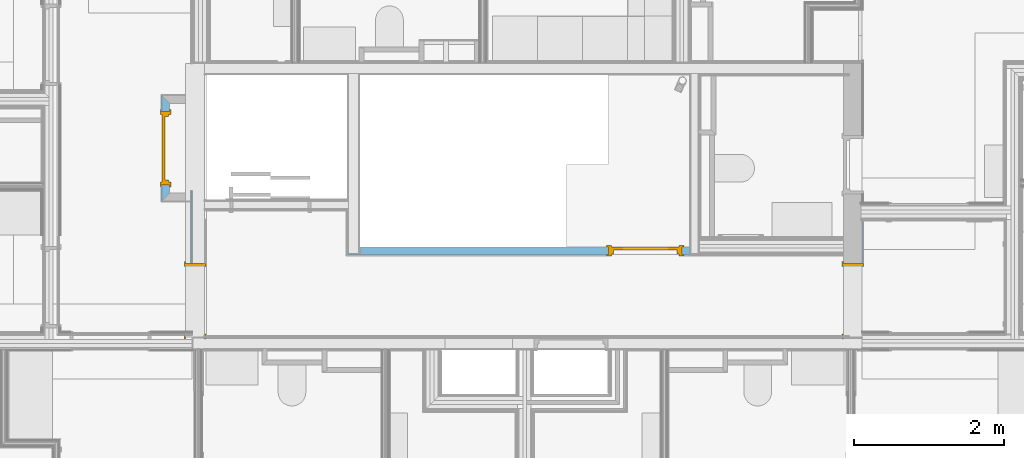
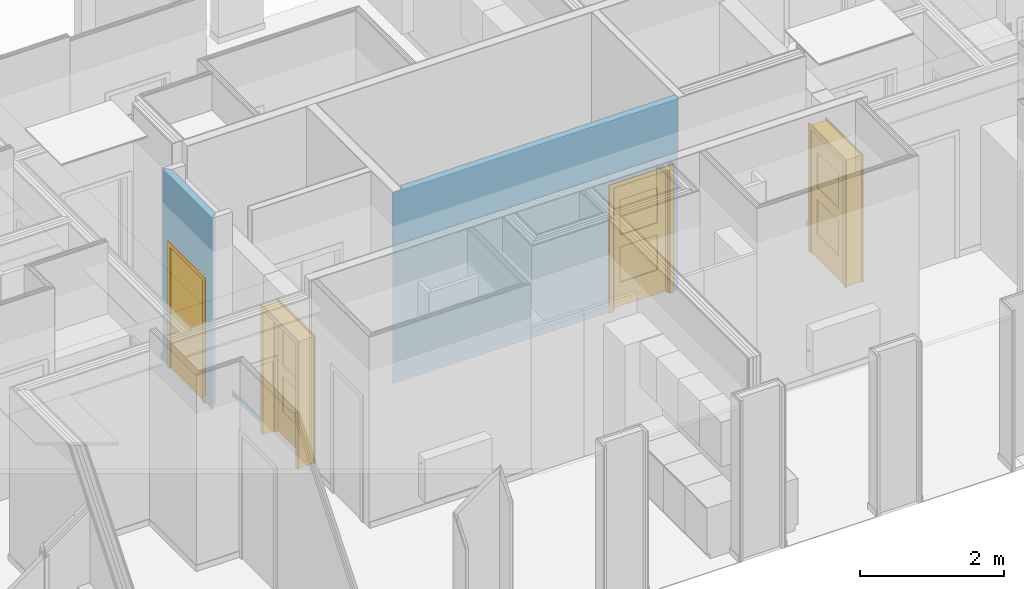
# One storey, part 49 of 65: 4 doors, 4 openings, plus 4 elements that do not belong to this part.
"""IFC2X3 building model written with IfcOpenShell, lengths in metres."""

from ifc_helpers import new_model, entity, si_unit, converted_unit, derived_unit, money_unit, direction, frame, frame_2d, origin_with_axes, place, context, subcontext, project, spatial, polyline, rectangle, outline, extrude, clip, bounded_halfspace, faceted_brep, material, layer, layer_set, layer_usage, type_object, element, fill, save


model = new_model("IFC2X3")

# Units and contexts
model_context = context("Model", 3, precision=1e-05, world=origin_with_axes(), true_north=direction((0.0, 1.0)))
body_context = subcontext(model_context, "Body", "Model", "MODEL_VIEW", scale=1.0)
ifc_project = project(units=[si_unit("LENGTHUNIT", "METRE"), si_unit("AREAUNIT", "SQUARE_METRE"), si_unit("VOLUMEUNIT", "CUBIC_METRE"), si_unit("ABSORBEDDOSEUNIT", "GRAY"), si_unit("AMOUNTOFSUBSTANCEUNIT", "MOLE"), si_unit("DOSEEQUIVALENTUNIT", "SIEVERT"), si_unit("ELECTRICCAPACITANCEUNIT", "FARAD"), si_unit("ELECTRICCHARGEUNIT", "COULOMB"), si_unit("ELECTRICCONDUCTANCEUNIT", "SIEMENS"), si_unit("ELECTRICCURRENTUNIT", "AMPERE"), si_unit("ELECTRICRESISTANCEUNIT", "OHM"), si_unit("ELECTRICVOLTAGEUNIT", "VOLT"), si_unit("ENERGYUNIT", "JOULE"), si_unit("FORCEUNIT", "NEWTON"), si_unit("FREQUENCYUNIT", "HERTZ"), si_unit("ILLUMINANCEUNIT", "LUX"), si_unit("INDUCTANCEUNIT", "HENRY"), si_unit("LUMINOUSFLUXUNIT", "LUMEN"), si_unit("LUMINOUSINTENSITYUNIT", "CANDELA"), si_unit("MAGNETICFLUXDENSITYUNIT", "TESLA"), si_unit("MAGNETICFLUXUNIT", "WEBER"), si_unit("MASSUNIT", "GRAM"), converted_unit("PLANEANGLEUNIT", "degree", entity("IfcReal", 0.0174532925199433), si_unit("PLANEANGLEUNIT", "RADIAN"), dimensions=[0, 0, 0, 0, 0, 0, 0]), si_unit("POWERUNIT", "WATT"), si_unit("PRESSUREUNIT", "PASCAL"), si_unit("RADIOACTIVITYUNIT", "BECQUEREL"), si_unit("SOLIDANGLEUNIT", "STERADIAN"), si_unit("THERMODYNAMICTEMPERATUREUNIT", "KELVIN"), si_unit("TIMEUNIT", "SECOND"), derived_unit("ACCELERATIONUNIT", [(si_unit("LENGTHUNIT", "METRE"), 1), (si_unit("TIMEUNIT", "SECOND"), -2)]), derived_unit("ANGULARVELOCITYUNIT", [(converted_unit("PLANEANGLEUNIT", "degree", entity("IfcReal", 0.0174532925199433), si_unit("PLANEANGLEUNIT", "RADIAN"), dimensions=[0, 0, 0, 0, 0, 0, 0]), 1), (si_unit("TIMEUNIT", "SECOND"), -1)]), derived_unit("CURVATUREUNIT", [(converted_unit("PLANEANGLEUNIT", "degree", entity("IfcReal", 0.0174532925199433), si_unit("PLANEANGLEUNIT", "RADIAN"), dimensions=[0, 0, 0, 0, 0, 0, 0]), 1), (si_unit("LENGTHUNIT", "METRE"), -1)]), derived_unit("DYNAMICVISCOSITYUNIT", [(si_unit("PRESSUREUNIT", "PASCAL"), 1), (si_unit("TIMEUNIT", "SECOND"), 1)]), derived_unit("HEATFLUXDENSITYUNIT", [(si_unit("POWERUNIT", "WATT"), 1), (si_unit("LENGTHUNIT", "METRE"), -2)]), derived_unit("HEATINGVALUEUNIT", [(si_unit("ENERGYUNIT", "JOULE"), 1), (si_unit("MASSUNIT", "GRAM"), -1)]), derived_unit("INTEGERCOUNTRATEUNIT", [(si_unit("TIMEUNIT", "SECOND"), -1)]), derived_unit("IONCONCENTRATIONUNIT", [(si_unit("MASSUNIT", "GRAM"), 1), (si_unit("VOLUMEUNIT", "CUBIC_METRE"), -1)]), derived_unit("ISOTHERMALMOISTURECAPACITYUNIT", [(si_unit("VOLUMEUNIT", "CUBIC_METRE"), 1), (si_unit("MASSUNIT", "GRAM"), -1)]), derived_unit("KINEMATICVISCOSITYUNIT", [(si_unit("AREAUNIT", "SQUARE_METRE"), 1), (si_unit("TIMEUNIT", "SECOND"), -1)]), derived_unit("LINEARFORCEUNIT", [(si_unit("FORCEUNIT", "NEWTON"), 1), (si_unit("LENGTHUNIT", "METRE"), -1)]), derived_unit("LINEARMOMENTUNIT", [(si_unit("FORCEUNIT", "NEWTON"), 1), (si_unit("LENGTHUNIT", "METRE"), -1)]), derived_unit("LINEARSTIFFNESSUNIT", [(si_unit("FORCEUNIT", "NEWTON"), 1), (si_unit("LENGTHUNIT", "METRE"), -1)]), derived_unit("LINEARVELOCITYUNIT", [(si_unit("LENGTHUNIT", "METRE"), 1), (si_unit("TIMEUNIT", "SECOND"), -1)]), derived_unit("LUMINOUSINTENSITYDISTRIBUTIONUNIT", [(si_unit("LUMINOUSINTENSITYUNIT", "CANDELA"), 1), (si_unit("LUMINOUSFLUXUNIT", "LUMEN"), -1)]), derived_unit("MASSDENSITYUNIT", [(si_unit("MASSUNIT", "GRAM"), 1), (si_unit("VOLUMEUNIT", "CUBIC_METRE"), -1)]), derived_unit("MASSFLOWRATEUNIT", [(si_unit("MASSUNIT", "GRAM"), 1), (si_unit("TIMEUNIT", "SECOND"), -1)]), derived_unit("MASSPERLENGTHUNIT", [(si_unit("MASSUNIT", "GRAM"), 1), (si_unit("LENGTHUNIT", "METRE"), -1)]), derived_unit("MODULUSOFELASTICITYUNIT", [(si_unit("FORCEUNIT", "NEWTON"), 1), (si_unit("AREAUNIT", "SQUARE_METRE"), -1)]), derived_unit("MODULUSOFLINEARSUBGRADEREACTIONUNIT", [(si_unit("FORCEUNIT", "NEWTON"), 1), (si_unit("LENGTHUNIT", "METRE"), -2)]), derived_unit("MODULUSOFROTATIONALSUBGRADEREACTIONUNIT", [(si_unit("FORCEUNIT", "NEWTON"), 1), (si_unit("LENGTHUNIT", "METRE"), 1)]), derived_unit("MODULUSOFSUBGRADEREACTIONUNIT", [(si_unit("FORCEUNIT", "NEWTON"), 1), (si_unit("VOLUMEUNIT", "CUBIC_METRE"), -1)]), derived_unit("MOISTUREDIFFUSIVITYUNIT", [(si_unit("VOLUMEUNIT", "CUBIC_METRE"), 1), (si_unit("TIMEUNIT", "SECOND"), -1)]), derived_unit("MOLECULARWEIGHTUNIT", [(si_unit("MASSUNIT", "GRAM"), 1), (si_unit("AMOUNTOFSUBSTANCEUNIT", "MOLE"), -1)]), derived_unit("PLANARFORCEUNIT", [(si_unit("FORCEUNIT", "NEWTON"), 1), (si_unit("LENGTHUNIT", "METRE"), -2)]), derived_unit("ROTATIONALFREQUENCYUNIT", [(si_unit("TIMEUNIT", "SECOND"), -1)]), derived_unit("ROTATIONALMASSUNIT", [(si_unit("MASSUNIT", "GRAM"), 1), (si_unit("LENGTHUNIT", "METRE"), 2)]), derived_unit("ROTATIONALSTIFFNESSUNIT", [(si_unit("FORCEUNIT", "NEWTON"), 1), (si_unit("LENGTHUNIT", "METRE"), 1), (converted_unit("PLANEANGLEUNIT", "degree", entity("IfcReal", 0.0174532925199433), si_unit("PLANEANGLEUNIT", "RADIAN"), dimensions=[0, 0, 0, 0, 0, 0, 0]), -1)]), derived_unit("SECTIONAREAINTEGRALUNIT", [(si_unit("LENGTHUNIT", "METRE"), 5)]), derived_unit("SECTIONMODULUSUNIT", [(si_unit("LENGTHUNIT", "METRE"), 3)]), derived_unit("SHEARMODULUSUNIT", [(si_unit("FORCEUNIT", "NEWTON"), 1), (si_unit("AREAUNIT", "SQUARE_METRE"), -1)]), derived_unit("SOUNDPOWERUNIT", [(si_unit("ENERGYUNIT", "JOULE"), 1), (si_unit("TIMEUNIT", "SECOND"), -1)]), derived_unit("SPECIFICHEATCAPACITYUNIT", [(si_unit("FORCEUNIT", "NEWTON"), 1), (si_unit("MASSUNIT", "GRAM"), -1), (si_unit("THERMODYNAMICTEMPERATUREUNIT", "KELVIN"), -1)]), derived_unit("TEMPERATUREGRADIENTUNIT", [(si_unit("THERMODYNAMICTEMPERATUREUNIT", "KELVIN"), 1), (si_unit("LENGTHUNIT", "METRE"), -1)]), derived_unit("THERMALADMITTANCEUNIT", [(si_unit("POWERUNIT", "WATT"), 1), (si_unit("AREAUNIT", "SQUARE_METRE"), -1), (si_unit("THERMODYNAMICTEMPERATUREUNIT", "KELVIN"), -1)]), derived_unit("THERMALCONDUCTANCEUNIT", [(si_unit("POWERUNIT", "WATT"), 1), (si_unit("LENGTHUNIT", "METRE"), -1), (si_unit("THERMODYNAMICTEMPERATUREUNIT", "KELVIN"), -1)]), derived_unit("THERMALEXPANSIONCOEFFICIENTUNIT", [(si_unit("THERMODYNAMICTEMPERATUREUNIT", "KELVIN"), -1)]), derived_unit("THERMALRESISTANCEUNIT", [(si_unit("AREAUNIT", "SQUARE_METRE"), 1), (si_unit("POWERUNIT", "WATT"), -1)]), derived_unit("THERMALTRANSMITTANCEUNIT", [(si_unit("POWERUNIT", "WATT"), 1), (si_unit("AREAUNIT", "SQUARE_METRE"), -1), (si_unit("THERMODYNAMICTEMPERATUREUNIT", "KELVIN"), -1)]), derived_unit("TORQUEUNIT", [(si_unit("FORCEUNIT", "NEWTON"), 1), (si_unit("LENGTHUNIT", "METRE"), 1)]), derived_unit("VAPORPERMEABILITYUNIT", [(si_unit("MASSUNIT", "GRAM"), 1), (si_unit("TIMEUNIT", "SECOND"), -1)]), derived_unit("VOLUMETRICFLOWRATEUNIT", [(si_unit("VOLUMEUNIT", "CUBIC_METRE"), 1), (si_unit("TIMEUNIT", "SECOND"), -1)]), derived_unit("WARPINGCONSTANTUNIT", [(si_unit("LENGTHUNIT", "METRE"), 6)]), derived_unit("WARPINGMOMENTUNIT", [(si_unit("FORCEUNIT", "NEWTON"), 1), (si_unit("LENGTHUNIT", "METRE"), 2)]), money_unit("GBP")], contexts=[model_context])

# Site, building, storey
site_placement = place(None, origin_with_axes())
site = spatial("IfcSite", under=ifc_project, at=site_placement, Name="Site", CompositionType="ELEMENT")
building_placement = place(site_placement, origin_with_axes())
building = spatial("IfcBuilding", under=site, at=building_placement, Name="Building01", CompositionType="ELEMENT")
storey_placement = place(building_placement, frame((0.0, 0.0, 8.64), z_axis=(0.0, 0.0, 1.0), x_axis=(1.0, 0.0, 0.0)))
storey = spatial("IfcBuildingStorey", under=building, at=storey_placement, Name="2F", CompositionType="ELEMENT", Elevation=8.64)

# Wall, opening
ifc_material_1 = material(Name="A_BSUK_Walls_Timber")
ifc_layer_1 = layer(ifc_material_1, 0.015, ventilated=False)
ifc_layer_set_1 = layer_set([ifc_layer_1])
ifc_layer_usage_1 = layer_usage(ifc_layer_set_1, "AXIS2", "POSITIVE", 0.0)
wall_type_1 = type_object("IfcWallType", Name="default", PredefinedType="NOTDEFINED")
wall_1_placement = place(storey_placement, frame((9.045, 7.103405, 0.015), z_axis=(0.0, 0.0, 1.0), x_axis=(0.0, -1.0, 0.0)))
wall_1 = element("IfcWallStandardCase", 1, at=wall_1_placement, inside=storey, type_object=wall_type_1, material=ifc_layer_usage_1, Name="default", ObjectType="default", context=body_context, shape_type="SweptSolid", body=[
    extrude(rectangle(XDim=1.883405, YDim=0.015, at=frame_2d((0.941702, 0.0075), x_axis=(-1.0, 0.0))), origin_with_axes(), (0.0, 0.0, 1.0), 0.1),
])
opening_1_placement = place(wall_1_placement, frame((0.965686, 0.0, -0.015), z_axis=(0.0, 0.0, 1.0), x_axis=(1.0, 0.0, 0.0)))
opening_1 = element("IfcOpeningElement", 2, at=opening_1_placement, cuts=wall_1, Name="Opening", ObjectType="Opening", context=body_context, shape_type="SweptSolid", body=[
    extrude(rectangle(XDim=0.984, YDim=2.142, at=frame_2d((-0.492, 1.071), x_axis=(1.0, 0.0))), frame((0.0, 0.0, 0.0), z_axis=(0.0, 1.0, 0.0), x_axis=(-1.0, 0.0, 0.0)), (0.0, 0.0, 1.0), 0.015),
])

# Space
space_1_placement = place(storey_placement, frame((9.225, 6.85, 0.017932), z_axis=(0.0, 0.0, 1.0), x_axis=(0.0, -1.0, 0.0)))
space_1 = spatial("IfcSpace", under=storey, at=space_1_placement, Name="hall (vented)", CompositionType="ELEMENT", InteriorOrExteriorSpace="NOTDEFINED")

# Door
ifc_material_2 = material(Name="A_BSUK_Doors")
door_style_1 = type_object("IfcDoorStyle", Name="A-Doors-SingleVisionPanels", ConstructionType="USERDEFINED", OperationType="SINGLE_SWING_RIGHT", ParameterTakesPrecedence=False, Sizeable=False)
door_1_placement = place(opening_1_placement, frame((0.045719, 0.18, 0.0), z_axis=(0.0, 0.0, 1.0), x_axis=(1.0, 0.0, 0.0)))
door_1 = element("IfcDoor", 3, at=door_1_placement, inside=space_1, type_object=door_style_1, material=ifc_material_2, Name="2.01", ObjectType="A-Doors-SingleVisionPanels", OverallHeight=2.142, OverallWidth=0.983999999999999, context=body_context, shape_type="Brep", body=[
    faceted_brep([(0.9, -0.269, 0.0), (0.969, -0.269, 0.0), (0.969, -0.269, 2.169), (-0.069, -0.269, 2.169), (-0.069, -0.269, 0.0), (0.0, -0.269, 0.0), (0.0, -0.269, 2.1), (0.9, -0.269, 2.1), (-0.069, -0.25, 0.0), (-0.069, -0.25, 2.169), (0.969, -0.25, 2.169), (0.969, -0.25, 0.0), (0.9, 0.019, 0.0), (0.969, 0.019, 0.0), (0.969, 0.0, 0.0), (0.942, 0.0, 0.0), (0.942, -0.25, 0.0), (0.9, 0.019, 2.1), (0.0, 0.019, 2.1), (0.0, 0.019, 0.0), (-0.069, 0.019, 0.0), (-0.069, 0.019, 2.169), (0.969, 0.019, 2.169), (0.969, 0.0, 2.169), (0.942, -0.25, 2.142), (0.942, 0.0, 2.142), (-0.042, -0.25, 2.142), (-0.042, 0.0, 2.142), (-0.042, -0.25, 0.0), (-0.042, 0.0, 0.0), (-0.069, 0.0, 2.169), (-0.069, 0.0, 0.0)], [[[0, 1, 2, 3, 4, 5, 6, 7]], [[8, 4, 3, 9]], [[10, 2, 1, 11]], [[9, 3, 2, 10]], [[12, 13, 14, 15, 16, 11, 1, 0]], [[7, 17, 12, 0]], [[6, 18, 17, 7]], [[18, 19, 20, 21, 22, 13, 12, 17]], [[5, 19, 18, 6]], [[13, 22, 23, 14]], [[24, 16, 15, 25]], [[26, 24, 25, 27]], [[11, 16, 24, 26, 28, 8, 9, 10]], [[27, 29, 28, 26]], [[25, 15, 14, 23, 30, 31, 29, 27]], [[5, 4, 8, 28, 29, 31, 20, 19]], [[30, 21, 20, 31]], [[23, 22, 21, 30]]]),
    faceted_brep([(0.0, -0.09, 2.1), (0.0, -0.04, 2.1), (0.0, -0.04, 0.0), (0.0, -0.09, 0.0), (0.875, -0.09, 0.0), (0.9, -0.09, 0.0), (0.9, -0.09, 2.1), (0.025, -0.09, 0.0), (0.025, -0.09, 2.075), (0.875, -0.09, 2.075), (0.875, -0.04, 0.0), (0.9, -0.04, 0.0), (0.9, -0.04, 2.1), (0.025, -0.04, 2.075), (0.025, -0.04, 0.0), (0.875, -0.04, 2.075)], [[[0, 1, 2, 3]], [[4, 5, 6, 0, 3, 7, 8, 9]], [[10, 11, 5, 4]], [[6, 12, 1, 0]], [[5, 11, 12, 6]], [[13, 14, 2, 1, 12, 11, 10, 15]], [[7, 14, 13, 8]], [[7, 3, 2, 14]], [[9, 15, 10, 4]], [[8, 13, 15, 9]]]),
    faceted_brep([(0.75, -0.017, 1.0), (0.75, -0.023, 1.0), (0.75, -0.023, 0.4), (0.75, -0.017, 0.4), (0.15, -0.017, 0.4), (0.15, -0.023, 0.4), (0.15, -0.023, 1.0), (0.15, -0.017, 1.0)], [[[0, 1, 2, 3]], [[4, 5, 6, 7]], [[7, 6, 1, 0]], [[3, 4, 7, 0]], [[3, 2, 5, 4]], [[1, 6, 5, 2]]]),
    faceted_brep([(0.75, -0.017, 1.8), (0.75, -0.023, 1.8), (0.75, -0.023, 1.2), (0.75, -0.017, 1.2), (0.15, -0.017, 1.2), (0.15, -0.023, 1.2), (0.15, -0.023, 1.8), (0.15, -0.017, 1.8)], [[[0, 1, 2, 3]], [[4, 5, 6, 7]], [[7, 6, 1, 0]], [[3, 4, 7, 0]], [[3, 2, 5, 4]], [[1, 6, 5, 2]]]),
    faceted_brep([(0.15, -0.04, 1.8), (0.15, 0.0, 1.8), (0.75, 0.0, 1.8), (0.75, -0.04, 1.8), (0.15, -0.04, 0.4), (0.15, 0.0, 0.4), (0.15, 0.0, 1.0), (0.15, -0.04, 1.0), (0.75, -0.04, 0.4), (0.75, 0.0, 0.4), (0.75, -0.04, 1.0), (0.75, 0.0, 1.0), (0.0, 0.0, 2.1), (0.9, 0.0, 2.1), (0.9, 0.0, 0.0), (0.0, 0.0, 0.0), (0.15, 0.0, 1.2), (0.75, 0.0, 1.2), (0.0, -0.04, 2.1), (0.0, -0.04, 0.0), (0.9, -0.04, 2.1), (0.9, -0.04, 0.0), (0.15, -0.04, 1.2), (0.75, -0.04, 1.2)], [[[0, 1, 2, 3]], [[4, 5, 6, 7]], [[8, 9, 5, 4]], [[10, 11, 9, 8]], [[7, 6, 11, 10]], [[12, 13, 14, 15], [5, 9, 11, 6], [16, 17, 2, 1]], [[18, 12, 15, 19]], [[20, 13, 12, 18]], [[21, 14, 13, 20]], [[19, 15, 14, 21]], [[22, 16, 1, 0]], [[23, 17, 16, 22]], [[3, 2, 17, 23]], [[19, 21, 20, 18], [4, 7, 10, 8], [22, 0, 3, 23]]]),
])

fill(opening_1, door_1)

# Wall, opening, door
wall_2_placement = place(storey_placement, frame((18.0, 6.69, 0.015), z_axis=(0.0, 0.0, 1.0), x_axis=(0.0, -1.0, 0.0)))
wall_2 = element("IfcWallStandardCase", 4, at=wall_2_placement, inside=storey, type_object=wall_type_1, material=ifc_layer_usage_1, Name="default", ObjectType="default", context=body_context, shape_type="SweptSolid", body=[
    extrude(outline(polyline([(1.47, 0.015), (0.0, 0.015), (0.0, 0.0), (1.485, 0.0), (1.47, 0.015)])), origin_with_axes(), (0.0, 0.0, 1.0), 0.1),
])
opening_2_placement = place(wall_2_placement, frame((0.556, 0.0, -0.015), z_axis=(0.0, 0.0, 1.0), x_axis=(1.0, 0.0, 0.0)))
opening_2 = element("IfcOpeningElement", 5, at=opening_2_placement, cuts=wall_2, Name="Opening", ObjectType="Opening", context=body_context, shape_type="SweptSolid", body=[
    extrude(rectangle(XDim=2.142, YDim=1.007262, at=frame_2d((-0.503631, 1.071), x_axis=(0.0, -1.0))), frame((0.0, 0.0, 0.0), z_axis=(0.0, 1.0, 0.0), x_axis=(-1.0, 0.0, 0.0)), (0.0, 0.0, 1.0), 0.015),
])
door_style_2 = type_object("IfcDoorStyle", Name="A-Doors-SingleVisionPanels", ConstructionType="USERDEFINED", OperationType="SINGLE_SWING_LEFT", ParameterTakesPrecedence=False, Sizeable=False)
door_2_placement = place(opening_2_placement, frame((0.942, -0.25, 0.0), z_axis=(0.0, 0.0, 1.0), x_axis=(-1.0, 0.0, 0.0)))
door_2 = element("IfcDoor", 6, at=door_2_placement, inside=space_1, type_object=door_style_2, material=ifc_material_2, Name="2.02", ObjectType="A-Doors-SingleVisionPanels", OverallHeight=2.142, OverallWidth=1.00726169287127, context=body_context, shape_type="Brep", body=[
    faceted_brep([(0.0, -0.269, 2.1), (0.9, -0.269, 2.1), (0.9, -0.269, 0.0), (0.969, -0.269, 0.0), (0.969, -0.269, 2.169), (-0.069, -0.269, 2.169), (-0.069, -0.269, 0.0), (0.0, -0.269, 0.0), (0.969, -0.25, 2.169), (0.969, -0.25, 0.0), (-0.069, -0.25, 0.0), (-0.069, -0.25, 2.169), (-0.042, -0.25, 0.0), (-0.042, 0.0, 0.0), (-0.069, 0.0, 0.0), (-0.069, 0.019, 0.0), (0.0, 0.019, 0.0), (0.0, 0.019, 2.1), (0.9, 0.019, 2.1), (-0.069, 0.019, 2.169), (0.969, 0.019, 2.169), (0.969, 0.019, 0.0), (0.9, 0.019, 0.0), (-0.069, 0.0, 2.169), (-0.042, 0.0, 2.142), (-0.042, -0.25, 2.142), (0.942, 0.0, 2.142), (0.942, -0.25, 2.142), (0.942, -0.25, 0.0), (0.942, 0.0, 0.0), (0.969, 0.0, 0.0), (0.969, 0.0, 2.169)], [[[0, 1, 2, 3, 4, 5, 6, 7]], [[8, 4, 3, 9]], [[10, 6, 5, 11]], [[11, 5, 4, 8]], [[7, 6, 10, 12, 13, 14, 15, 16]], [[7, 16, 17, 0]], [[0, 17, 18, 1]], [[17, 16, 15, 19, 20, 21, 22, 18]], [[1, 18, 22, 2]], [[14, 23, 19, 15]], [[24, 13, 12, 25]], [[26, 24, 25, 27]], [[11, 8, 9, 28, 27, 25, 12, 10]], [[27, 28, 29, 26]], [[26, 29, 30, 31, 23, 14, 13, 24]], [[22, 21, 30, 29, 28, 9, 3, 2]], [[30, 21, 20, 31]], [[31, 20, 19, 23]]]),
    faceted_brep([(0.9, -0.09, 0.0), (0.9, -0.04, 0.0), (0.9, -0.04, 2.1), (0.9, -0.09, 2.1), (0.025, -0.09, 2.075), (0.875, -0.09, 2.075), (0.875, -0.09, 0.0), (0.0, -0.09, 2.1), (0.0, -0.09, 0.0), (0.025, -0.09, 0.0), (0.0, -0.04, 0.0), (0.025, -0.04, 0.0), (0.0, -0.04, 2.1), (0.025, -0.04, 2.075), (0.875, -0.04, 0.0), (0.875, -0.04, 2.075)], [[[0, 1, 2, 3]], [[4, 5, 6, 0, 3, 7, 8, 9]], [[9, 8, 10, 11]], [[3, 2, 12, 7]], [[7, 12, 10, 8]], [[13, 11, 10, 12, 2, 1, 14, 15]], [[5, 15, 14, 6]], [[14, 1, 0, 6]], [[9, 11, 13, 4]], [[4, 13, 15, 5]]]),
    faceted_brep([(0.15, -0.017, 0.4), (0.15, -0.023, 0.4), (0.15, -0.023, 1.0), (0.15, -0.017, 1.0), (0.75, -0.017, 1.0), (0.75, -0.023, 1.0), (0.75, -0.023, 0.4), (0.75, -0.017, 0.4)], [[[0, 1, 2, 3]], [[4, 5, 6, 7]], [[3, 2, 5, 4]], [[3, 4, 7, 0]], [[7, 6, 1, 0]], [[1, 6, 5, 2]]]),
    faceted_brep([(0.15, -0.017, 1.2), (0.15, -0.023, 1.2), (0.15, -0.023, 1.8), (0.15, -0.017, 1.8), (0.75, -0.017, 1.8), (0.75, -0.023, 1.8), (0.75, -0.023, 1.2), (0.75, -0.017, 1.2)], [[[0, 1, 2, 3]], [[4, 5, 6, 7]], [[3, 2, 5, 4]], [[3, 4, 7, 0]], [[7, 6, 1, 0]], [[1, 6, 5, 2]]]),
    faceted_brep([(0.15, -0.04, 1.8), (0.15, 0.0, 1.8), (0.75, 0.0, 1.8), (0.75, -0.04, 1.8), (0.75, -0.04, 1.0), (0.75, 0.0, 1.0), (0.75, 0.0, 0.4), (0.75, -0.04, 0.4), (0.15, 0.0, 0.4), (0.15, -0.04, 0.4), (0.15, 0.0, 1.0), (0.15, -0.04, 1.0), (0.9, 0.0, 0.0), (0.0, 0.0, 0.0), (0.0, 0.0, 2.1), (0.9, 0.0, 2.1), (0.15, 0.0, 1.2), (0.75, 0.0, 1.2), (0.9, -0.04, 0.0), (0.9, -0.04, 2.1), (0.0, -0.04, 2.1), (0.0, -0.04, 0.0), (0.75, -0.04, 1.2), (0.15, -0.04, 1.2)], [[[0, 1, 2, 3]], [[4, 5, 6, 7]], [[7, 6, 8, 9]], [[9, 8, 10, 11]], [[11, 10, 5, 4]], [[12, 13, 14, 15], [5, 10, 8, 6], [2, 1, 16, 17]], [[18, 12, 15, 19]], [[19, 15, 14, 20]], [[20, 14, 13, 21]], [[21, 13, 12, 18]], [[3, 2, 17, 22]], [[22, 17, 16, 23]], [[23, 16, 1, 0]], [[19, 20, 21, 18], [9, 11, 4, 7], [23, 0, 3, 22]]]),
])
fill(opening_2, door_2)

# Wall, opening
ifc_material_3 = material(Name="A_BSUK_WallInternal_Finishes_Plasterboard")
ifc_layer_2 = layer(ifc_material_3, 0.015, ventilated=False)
ifc_material_4 = material(Name="Air Cavity")
ifc_layer_3 = layer(ifc_material_4, 0.072, ventilated=False)
ifc_layer_set_2 = layer_set([ifc_layer_2, ifc_layer_3, ifc_layer_2, ifc_layer_1])
ifc_layer_usage_2 = layer_usage(ifc_layer_set_2, "AXIS2", "POSITIVE", 0.0)
wall_type_2 = type_object("IfcWallType", Name="SHE_A-Walls_Type04c_RiserWall_102mm_tall", PredefinedType="NOTDEFINED")
wall_3_placement = place(storey_placement, frame((8.658, 6.968405, 0.015), z_axis=(0.0, 0.0, 1.0), x_axis=(0.0, 1.0, 0.0)))
wall_3 = element("IfcWallStandardCase", 7, at=wall_3_placement, inside=storey, type_object=wall_type_2, material=ifc_layer_usage_2, Name="4C", ObjectType="SHE_A-Walls_Type04c_RiserWall_102mm_tall", context=body_context, shape_type="Clipping", body=[
    clip(clip(extrude(outline(polyline([(1.389, -0.015), (1.389, 0.0), (1.404, 0.0), (1.419, 0.015), (-0.015, 0.015), (0.102, -0.102), (1.302, -0.102), (1.389, -0.015)])), frame((0.0, 0.0, -0.015), z_axis=(0.0, 0.0, 1.0), x_axis=(1.0, 0.0, 0.0)), (0.0, 0.0, 1.0), 3.24), bounded_halfspace(frame((0.0, 0.0, 0.1), z_axis=(0.0, 0.0, 1.0), x_axis=(1.0, 0.0, 0.0)), False, frame((0.0, 0.0, 0.1), z_axis=(0.0, 0.0, 1.0), x_axis=(1.0, 0.0, 0.0)), polyline([(1.419, 0.015), (-0.015, 0.015), (0.0, 0.0), (1.404, 0.0), (1.419, 0.015)]))), bounded_halfspace(frame((0.0, 0.0, 0.0), z_axis=(0.0, 0.0, -1.0), x_axis=(-1.0, 0.0, 0.0)), False, frame((0.0, 0.0, 0.0), z_axis=(0.0, 0.0, -1.0), x_axis=(-1.0, 0.0, 0.0)), polyline([(-1.404, 0.0), (0.0, 0.0), (0.015, 0.015), (-1.419, 0.015), (-1.404, 0.0)]))),
])
opening_3_placement = place(wall_3_placement, frame((0.21, -0.102, -0.015), z_axis=(0.0, 0.0, 1.0), x_axis=(1.0, 0.0, 0.0)))
opening_3 = element("IfcOpeningElement", 8, at=opening_3_placement, cuts=wall_3, Name="Opening", ObjectType="Opening", context=body_context, shape_type="SweptSolid", body=[
    extrude(rectangle(XDim=0.984, YDim=2.1, at=frame_2d((-0.492, 1.05), x_axis=(1.0, 0.0))), frame((0.0, 0.0, 0.0), z_axis=(0.0, 1.0, 0.0), x_axis=(-1.0, 0.0, 0.0)), (0.0, 0.0, 1.0), 0.117),
])

# Space
space_2_placement = place(storey_placement, frame((7.287055, 5.205, 0.017932), z_axis=(0.0, 0.0, 1.0), x_axis=(1.0, 0.0, 0.0)))
space_2 = spatial("IfcSpace", under=storey, at=space_2_placement, Name="2", CompositionType="ELEMENT", InteriorOrExteriorSpace="NOTDEFINED")

# Door
door_style_3 = type_object("IfcDoorStyle", Name="A-Doors-DoubleFlush", ConstructionType="USERDEFINED", OperationType="DOUBLE_DOOR_SINGLE_SWING", ParameterTakesPrecedence=False, Sizeable=False)
door_3_placement = place(opening_3_placement, frame((0.042, 0.102, 0.0), z_axis=(0.0, 0.0, 1.0), x_axis=(1.0, 0.0, 0.0)))
door_3 = element("IfcDoor", 9, at=door_3_placement, inside=space_2, type_object=door_style_3, material=ifc_material_2, Name="2.28", ObjectType="A-Doors-DoubleFlush", OverallHeight=2.1, OverallWidth=0.983999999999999, context=body_context, shape_type="Brep", body=[
    faceted_brep([(0.0, -0.121, 2.058), (0.9, -0.121, 2.058), (0.9, -0.121, 0.0), (0.969, -0.121, 0.0), (0.969, -0.121, 2.127), (-0.069, -0.121, 2.127), (-0.069, -0.121, 0.0), (0.0, -0.121, 0.0), (0.969, -0.102, 2.127), (0.969, -0.102, 0.0), (-0.069, -0.102, 0.0), (-0.069, -0.102, 2.127), (-0.042, -0.102, 0.0), (-0.042, 0.0, 0.0), (-0.069, 0.0, 0.0), (-0.069, 0.019, 0.0), (0.0, 0.019, 0.0), (0.0, 0.019, 2.058), (0.9, 0.019, 2.058), (-0.069, 0.019, 2.127), (0.969, 0.019, 2.127), (0.969, 0.019, 0.0), (0.9, 0.019, 0.0), (-0.069, 0.0, 2.127), (-0.042, 0.0, 2.1), (-0.042, -0.102, 2.1), (0.942, 0.0, 2.1), (0.942, -0.102, 2.1), (0.942, -0.102, 0.0), (0.942, 0.0, 0.0), (0.969, 0.0, 0.0), (0.969, 0.0, 2.127)], [[[0, 1, 2, 3, 4, 5, 6, 7]], [[8, 4, 3, 9]], [[10, 6, 5, 11]], [[11, 5, 4, 8]], [[7, 6, 10, 12, 13, 14, 15, 16]], [[7, 16, 17, 0]], [[0, 17, 18, 1]], [[17, 16, 15, 19, 20, 21, 22, 18]], [[1, 18, 22, 2]], [[14, 23, 19, 15]], [[24, 13, 12, 25]], [[26, 24, 25, 27]], [[11, 8, 9, 28, 27, 25, 12, 10]], [[27, 28, 29, 26]], [[26, 29, 30, 31, 23, 14, 13, 24]], [[22, 21, 30, 29, 28, 9, 3, 2]], [[30, 21, 20, 31]], [[31, 20, 19, 23]]]),
    faceted_brep([(0.9, -0.09, 0.0), (0.9, -0.04, 0.0), (0.9, -0.04, 2.058), (0.9, -0.09, 2.058), (0.025, -0.09, 2.033), (0.875, -0.09, 2.033), (0.875, -0.09, 0.0), (0.0, -0.09, 2.058), (0.0, -0.09, 0.0), (0.025, -0.09, 0.0), (0.0, -0.04, 0.0), (0.025, -0.04, 0.0), (0.0, -0.04, 2.058), (0.025, -0.04, 2.033), (0.875, -0.04, 0.0), (0.875, -0.04, 2.033)], [[[0, 1, 2, 3]], [[4, 5, 6, 0, 3, 7, 8, 9]], [[9, 8, 10, 11]], [[3, 2, 12, 7]], [[7, 12, 10, 8]], [[13, 11, 10, 12, 2, 1, 14, 15]], [[5, 15, 14, 6]], [[14, 1, 0, 6]], [[9, 11, 13, 4]], [[4, 13, 15, 5]]]),
    faceted_brep([(0.0, -0.04, 2.058), (0.0, 0.0, 2.058), (0.0, 0.0, 0.0), (0.0, -0.04, 0.0), (0.45, -0.04, 0.0), (0.45, 0.0, 0.0), (0.45, 0.0, 2.058), (0.45, -0.04, 2.058)], [[[0, 1, 2, 3]], [[4, 5, 6, 7]], [[3, 2, 5, 4]], [[3, 4, 7, 0]], [[7, 6, 1, 0]], [[1, 6, 5, 2]]]),
    faceted_brep([(0.45, -0.04, 2.058), (0.45, 0.0, 2.058), (0.45, 0.0, 0.0), (0.45, -0.04, 0.0), (0.9, -0.04, 0.0), (0.9, 0.0, 0.0), (0.9, 0.0, 2.058), (0.9, -0.04, 2.058)], [[[0, 1, 2, 3]], [[4, 5, 6, 7]], [[3, 2, 5, 4]], [[3, 4, 7, 0]], [[7, 6, 1, 0]], [[1, 6, 5, 2]]]),
])

fill(opening_3, door_3)

# Wall, opening
ifc_layer_4 = layer(ifc_material_3, 0.013, ventilated=False)
ifc_layer_5 = layer(ifc_material_3, 0.012, ventilated=False)
ifc_layer_6 = layer(ifc_material_4, 0.05, ventilated=False)
ifc_layer_set_3 = layer_set([ifc_layer_1, ifc_layer_4, ifc_layer_5, ifc_layer_6, ifc_layer_5, ifc_layer_4])
ifc_layer_usage_3 = layer_usage(ifc_layer_set_3, "AXIS2", "POSITIVE", 0.0)
wall_type_3 = type_object("IfcWallType", Name="SHE_A-Walls_Type03c_Firewall_F120_100mm", PredefinedType="NOTDEFINED")
wall_4_placement = place(storey_placement, frame((11.115, 6.25, 0.015), z_axis=(0.0, 0.0, 1.0), x_axis=(1.0, 0.0, 0.0)))
wall_4 = element("IfcWallStandardCase", 10, at=wall_4_placement, inside=storey, type_object=wall_type_3, material=ifc_layer_usage_3, Name="3C", ObjectType="SHE_A-Walls_Type03c_Firewall_F120_100mm", context=body_context, shape_type="Clipping", body=[
    clip(clip(extrude(outline(polyline([(4.585, 0.0), (4.585, 0.1), (0.185, 0.1), (0.185, 0.013), (0.015, 0.013), (0.015, 0.0), (0.0, 0.0), (0.0, -0.015), (4.57, -0.015), (4.585, 0.0)])), frame((0.0, 0.0, -0.015), z_axis=(0.0, 0.0, 1.0), x_axis=(1.0, 0.0, 0.0)), (0.0, 0.0, 1.0), 3.24), bounded_halfspace(frame((0.0, 0.0, 0.1), z_axis=(0.0, 0.0, 1.0), x_axis=(1.0, 0.0, 0.0)), False, frame((0.0, 0.0, 0.1), z_axis=(0.0, 0.0, 1.0), x_axis=(1.0, 0.0, 0.0)), polyline([(4.585, 0.0), (0.0, 0.0), (0.0, -0.015), (4.57, -0.015), (4.585, 0.0)]))), bounded_halfspace(frame((0.0, 0.0, 0.0), z_axis=(0.0, 0.0, -1.0), x_axis=(-1.0, 0.0, 0.0)), False, frame((0.0, 0.0, 0.0), z_axis=(0.0, 0.0, -1.0), x_axis=(-1.0, 0.0, 0.0)), polyline([(-4.57, -0.015), (0.0, -0.015), (0.0, 0.0), (-4.585, 0.0), (-4.57, -0.015)]))),
])
opening_4_placement = place(wall_4_placement, frame((3.501, -0.015, -0.03), z_axis=(0.0, 0.0, 1.0), x_axis=(1.0, 0.0, 0.0)))
opening_4 = element("IfcOpeningElement", 11, at=opening_4_placement, cuts=wall_4, Name="Opening", ObjectType="Opening", context=body_context, shape_type="SweptSolid", body=[
    extrude(rectangle(XDim=2.142, YDim=0.984, at=frame_2d((-0.492, 1.071), x_axis=(0.0, 1.0))), frame((0.0, 0.0, 0.0), z_axis=(0.0, 1.0, 0.0), x_axis=(-1.0, 0.0, 0.0)), (0.0, 0.0, 1.0), 0.115),
])

# Space
space_3_placement = place(storey_placement, frame((14.606971, 7.454282, 0.017932), z_axis=(0.0, 0.0, 1.0), x_axis=(-1.0, 0.0, 0.0)))
space_3 = spatial("IfcSpace", under=storey, at=space_3_placement, Name="landing", CompositionType="ELEMENT", InteriorOrExteriorSpace="NOTDEFINED")

# Door
door_style_4 = type_object("IfcDoorStyle", Name="A-Doors-SingleVisionPanels", ConstructionType="USERDEFINED", OperationType="SINGLE_SWING_RIGHT", ParameterTakesPrecedence=False, Sizeable=False)
door_4_placement = place(opening_4_placement, frame((0.042, 0.115, 0.015), z_axis=(0.0, 0.0, 1.0), x_axis=(1.0, 0.0, 0.0)))
door_4 = element("IfcDoor", 12, at=door_4_placement, inside=space_3, type_object=door_style_4, material=ifc_material_2, Name="2.04", ObjectType="A-Doors-SingleVisionPanels", OverallHeight=2.14200000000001, OverallWidth=0.984000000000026, context=body_context, shape_type="Brep", body=[
    faceted_brep([(0.9, -0.119, 0.0), (0.969, -0.119, 0.0), (0.969, -0.119, 2.169), (-0.069, -0.119, 2.169), (-0.069, -0.119, 0.0), (0.0, -0.119, 0.0), (0.0, -0.119, 2.1), (0.9, -0.119, 2.1), (-0.069, -0.1, 0.0), (-0.069, -0.1, 2.169), (0.969, -0.1, 2.169), (0.969, -0.1, 0.0), (0.9, 0.019, 0.0), (0.969, 0.019, 0.0), (0.969, 0.0, 0.0), (0.942, 0.0, 0.0), (0.942, -0.1, 0.0), (0.9, 0.019, 2.1), (0.0, 0.019, 2.1), (0.0, 0.019, 0.0), (-0.069, 0.019, 0.0), (-0.069, 0.019, 2.169), (0.969, 0.019, 2.169), (0.969, 0.0, 2.169), (0.942, -0.1, 2.142), (0.942, 0.0, 2.142), (-0.042, -0.1, 2.142), (-0.042, 0.0, 2.142), (-0.042, -0.1, 0.0), (-0.042, 0.0, 0.0), (-0.069, 0.0, 2.169), (-0.069, 0.0, 0.0)], [[[0, 1, 2, 3, 4, 5, 6, 7]], [[8, 4, 3, 9]], [[10, 2, 1, 11]], [[9, 3, 2, 10]], [[12, 13, 14, 15, 16, 11, 1, 0]], [[7, 17, 12, 0]], [[6, 18, 17, 7]], [[18, 19, 20, 21, 22, 13, 12, 17]], [[5, 19, 18, 6]], [[13, 22, 23, 14]], [[24, 16, 15, 25]], [[26, 24, 25, 27]], [[11, 16, 24, 26, 28, 8, 9, 10]], [[27, 29, 28, 26]], [[25, 15, 14, 23, 30, 31, 29, 27]], [[5, 4, 8, 28, 29, 31, 20, 19]], [[30, 21, 20, 31]], [[23, 22, 21, 30]]]),
    faceted_brep([(0.0, -0.09, 2.1), (0.0, -0.04, 2.1), (0.0, -0.04, 0.0), (0.0, -0.09, 0.0), (0.875, -0.09, 0.0), (0.9, -0.09, 0.0), (0.9, -0.09, 2.1), (0.025, -0.09, 0.0), (0.025, -0.09, 2.075), (0.875, -0.09, 2.075), (0.875, -0.04, 0.0), (0.9, -0.04, 0.0), (0.9, -0.04, 2.1), (0.025, -0.04, 2.075), (0.025, -0.04, 0.0), (0.875, -0.04, 2.075)], [[[0, 1, 2, 3]], [[4, 5, 6, 0, 3, 7, 8, 9]], [[10, 11, 5, 4]], [[6, 12, 1, 0]], [[5, 11, 12, 6]], [[13, 14, 2, 1, 12, 11, 10, 15]], [[7, 14, 13, 8]], [[7, 3, 2, 14]], [[9, 15, 10, 4]], [[8, 13, 15, 9]]]),
    faceted_brep([(0.75, -0.017, 1.0), (0.75, -0.023, 1.0), (0.75, -0.023, 0.4), (0.75, -0.017, 0.4), (0.15, -0.017, 0.4), (0.15, -0.023, 0.4), (0.15, -0.023, 1.0), (0.15, -0.017, 1.0)], [[[0, 1, 2, 3]], [[4, 5, 6, 7]], [[7, 6, 1, 0]], [[3, 4, 7, 0]], [[3, 2, 5, 4]], [[1, 6, 5, 2]]]),
    faceted_brep([(0.75, -0.017, 1.8), (0.75, -0.023, 1.8), (0.75, -0.023, 1.2), (0.75, -0.017, 1.2), (0.15, -0.017, 1.2), (0.15, -0.023, 1.2), (0.15, -0.023, 1.8), (0.15, -0.017, 1.8)], [[[0, 1, 2, 3]], [[4, 5, 6, 7]], [[7, 6, 1, 0]], [[3, 4, 7, 0]], [[3, 2, 5, 4]], [[1, 6, 5, 2]]]),
    faceted_brep([(0.15, -0.04, 1.8), (0.15, 0.0, 1.8), (0.75, 0.0, 1.8), (0.75, -0.04, 1.8), (0.15, -0.04, 0.4), (0.15, 0.0, 0.4), (0.15, 0.0, 1.0), (0.15, -0.04, 1.0), (0.75, -0.04, 0.4), (0.75, 0.0, 0.4), (0.75, -0.04, 1.0), (0.75, 0.0, 1.0), (0.0, 0.0, 2.1), (0.9, 0.0, 2.1), (0.9, 0.0, 0.0), (0.0, 0.0, 0.0), (0.15, 0.0, 1.2), (0.75, 0.0, 1.2), (0.0, -0.04, 2.1), (0.0, -0.04, 0.0), (0.9, -0.04, 2.1), (0.9, -0.04, 0.0), (0.15, -0.04, 1.2), (0.75, -0.04, 1.2)], [[[0, 1, 2, 3]], [[4, 5, 6, 7]], [[8, 9, 5, 4]], [[10, 11, 9, 8]], [[7, 6, 11, 10]], [[12, 13, 14, 15], [5, 9, 11, 6], [16, 17, 2, 1]], [[18, 12, 15, 19]], [[20, 13, 12, 18]], [[21, 14, 13, 20]], [[19, 15, 14, 21]], [[22, 16, 1, 0]], [[23, 17, 16, 22]], [[3, 2, 17, 23]], [[19, 21, 20, 18], [4, 7, 10, 8], [22, 0, 3, 23]]]),
])

fill(opening_4, door_4)

save(model, "model.ifc")
